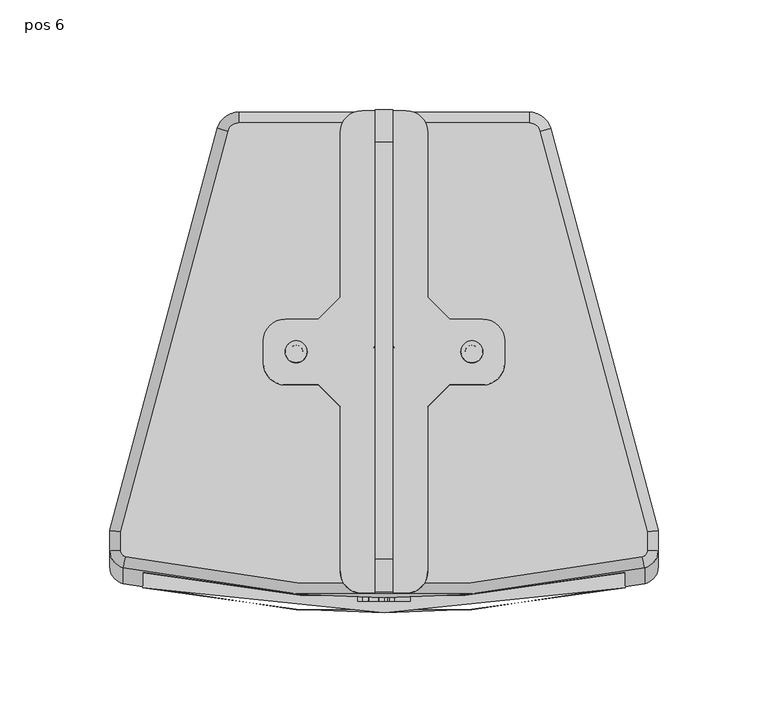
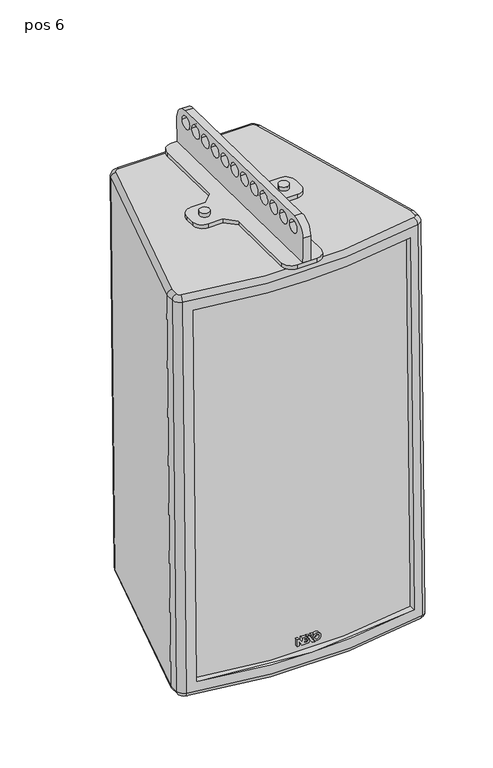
"""IFC4 building model written with IfcOpenShell, lengths in millimetres: proxy geometry, ePS8-BUMP-TRUSSVM : pos 6."""

from ifc_helpers import new_model, si_unit, point, frame, frame_2d, origin, origin_2d, place, context, project, spatial, polyline, circle_curve, ellipse_curve, trimmed, segment, composite_curve, outline, extrude, source, transform, mapped, element, save
from ifc_brep_helpers import plane_surface, cylinder_surface, revolved_surface, advanced_brep


def pos_6_240014a1(model_context):
    return source(origin(), model_context, "Body", "SolidModel", [
        extrude(outline(composite_curve([segment(trimmed(circle_curve(frame_2d((0.0, -5.0)), 5.0), [point((0.0, -10.0))], [point((0.0, 0.0))], False, "CARTESIAN"), True, "CONTINUOUS"), segment(trimmed(circle_curve(frame_2d((0.0, -5.0)), 5.0), [point((0.0, 0.0))], [point((0.0, -10.0))], False, "CARTESIAN"), True, "CONTINUOUS")], self_intersect=False)), frame((-35.0511607, 7.5185807, -29.1356548), z_axis=(0.0, 0.017452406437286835, 0.9998476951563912), x_axis=(0.0, -0.9998476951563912, 0.017452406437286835)), (0.0, 0.0, 1.0), 4.0),
        extrude(outline(composite_curve([segment(trimmed(circle_curve(frame_2d((0.0, 75.1023214)), 5.0), [point((0.0, 80.1023214))], [point((0.0, 70.1023214))], False, "CARTESIAN"), True, "CONTINUOUS"), segment(trimmed(circle_curve(frame_2d((0.0, 75.1023214)), 5.0), [point((0.0, 70.1023214))], [point((0.0, 80.1023214))], False, "CARTESIAN"), True, "CONTINUOUS")], self_intersect=False)), frame((-35.0511607, 7.5185807, -29.1356548), z_axis=(0.0, 0.017452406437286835, 0.9998476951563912), x_axis=(0.0, -0.9998476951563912, 0.017452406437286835)), (0.0, 0.0, 1.0), 4.0),
        extrude(outline(composite_curve([segment(trimmed(circle_curve(frame_2d((102.9578743, -4.7975934)), 15.0), [point((103.2196604, 10.2001221))], [point((117.9555897, -5.0593795))], False, "CARTESIAN"), True, "CONTINUOUS"), segment(polyline([(117.9555897, -5.0593795), (117.5018271, -31.0554195), (-102.4646658, -27.2158901), (-102.0109032, -1.21985)]), True, "CONTINUOUS"), segment(trimmed(circle_curve(frame_2d((-87.0131878, -1.4816361)), 15.0), [point((-102.0109032, -1.21985))], [point((-86.7514017, 13.5160793))], False, "CARTESIAN"), True, "CONTINUOUS"), segment(polyline([(-86.7514017, 13.5160793), (103.2196604, 10.2001221)]), True, "CONTINUOUS")], self_intersect=False), holes=[composite_curve([segment(trimmed(circle_curve(origin_2d(), 6.5), [point((-6.49901, 0.1134406))], [point((6.49901, -0.1134406))], True, "CARTESIAN"), True, "CONTINUOUS"), segment(trimmed(circle_curve(origin_2d(), 6.5), [point((6.49901, -0.1134406))], [point((-6.49901, 0.1134406))], True, "CARTESIAN"), True, "CONTINUOUS")], self_intersect=False), composite_curve([segment(trimmed(circle_curve(frame_2d((-17.0755239, 0.2980544)), 6.5), [point((-23.5745339, 0.411495))], [point((-10.5765139, 0.1846137))], True, "CARTESIAN"), True, "CONTINUOUS"), segment(trimmed(circle_curve(frame_2d((-17.0755239, 0.2980544)), 6.5), [point((-10.5765139, 0.1846137))], [point((-23.5745339, 0.411495))], True, "CARTESIAN"), True, "CONTINUOUS")], self_intersect=False), composite_curve([segment(trimmed(circle_curve(frame_2d((-34.1510478, 0.5961088)), 6.5), [point((-40.6500579, 0.7095494))], [point((-27.6520378, 0.4826681))], True, "CARTESIAN"), True, "CONTINUOUS"), segment(trimmed(circle_curve(frame_2d((-34.1510478, 0.5961088)), 6.5), [point((-27.6520378, 0.4826681))], [point((-40.6500579, 0.7095494))], True, "CARTESIAN"), True, "CONTINUOUS")], self_intersect=False), composite_curve([segment(trimmed(circle_curve(frame_2d((-51.2265718, 0.8941631)), 6.5), [point((-57.7255818, 1.0076038))], [point((-44.7275617, 0.7807225))], True, "CARTESIAN"), True, "CONTINUOUS"), segment(trimmed(circle_curve(frame_2d((-51.2265718, 0.8941631)), 6.5), [point((-44.7275617, 0.7807225))], [point((-57.7255818, 1.0076038))], True, "CARTESIAN"), True, "CONTINUOUS")], self_intersect=False), composite_curve([segment(trimmed(circle_curve(frame_2d((-68.3020957, 1.1922175)), 6.5), [point((-74.8011057, 1.3056582))], [point((-61.8030857, 1.0787769))], True, "CARTESIAN"), True, "CONTINUOUS"), segment(trimmed(circle_curve(frame_2d((-68.3020957, 1.1922175)), 6.5), [point((-61.8030857, 1.0787769))], [point((-74.8011057, 1.3056582))], True, "CARTESIAN"), True, "CONTINUOUS")], self_intersect=False), composite_curve([segment(trimmed(circle_curve(frame_2d((-85.3776196, 1.4902719)), 6.5), [point((-91.8766296, 1.6037125))], [point((-78.8786096, 1.3768313))], True, "CARTESIAN"), True, "CONTINUOUS"), segment(trimmed(circle_curve(frame_2d((-85.3776196, 1.4902719)), 6.5), [point((-78.8786096, 1.3768313))], [point((-91.8766296, 1.6037125))], True, "CARTESIAN"), True, "CONTINUOUS")], self_intersect=False), composite_curve([segment(trimmed(circle_curve(frame_2d((17.106153, -0.298589)), 6.5), [point((23.605163, -0.4120297))], [point((10.607143, -0.1851484))], True, "CARTESIAN"), True, "CONTINUOUS"), segment(trimmed(circle_curve(frame_2d((17.106153, -0.298589)), 6.5), [point((10.607143, -0.1851484))], [point((23.605163, -0.4120297))], True, "CARTESIAN"), True, "CONTINUOUS")], self_intersect=False), composite_curve([segment(trimmed(circle_curve(frame_2d((34.1816769, -0.5966434)), 6.5), [point((40.6806869, -0.710084))], [point((27.6826669, -0.4832027))], True, "CARTESIAN"), True, "CONTINUOUS"), segment(trimmed(circle_curve(frame_2d((34.1816769, -0.5966434)), 6.5), [point((27.6826669, -0.4832027))], [point((40.6806869, -0.710084))], True, "CARTESIAN"), True, "CONTINUOUS")], self_intersect=False), composite_curve([segment(trimmed(circle_curve(frame_2d((51.2572008, -0.8946978)), 6.5), [point((57.7562108, -1.0081384))], [point((44.7581908, -0.7812571))], True, "CARTESIAN"), True, "CONTINUOUS"), segment(trimmed(circle_curve(frame_2d((51.2572008, -0.8946978)), 6.5), [point((44.7581908, -0.7812571))], [point((57.7562108, -1.0081384))], True, "CARTESIAN"), True, "CONTINUOUS")], self_intersect=False), composite_curve([segment(trimmed(circle_curve(frame_2d((68.3327247, -1.1927521)), 6.5), [point((74.8317348, -1.3061928))], [point((61.8337147, -1.0793115))], True, "CARTESIAN"), True, "CONTINUOUS"), segment(trimmed(circle_curve(frame_2d((68.3327247, -1.1927521)), 6.5), [point((61.8337147, -1.0793115))], [point((74.8317348, -1.3061928))], True, "CARTESIAN"), True, "CONTINUOUS")], self_intersect=False), composite_curve([segment(trimmed(circle_curve(frame_2d((85.4082487, -1.4908065)), 6.5), [point((91.9072587, -1.6042472))], [point((78.9092386, -1.3773659))], True, "CARTESIAN"), True, "CONTINUOUS"), segment(trimmed(circle_curve(frame_2d((85.4082487, -1.4908065)), 6.5), [point((78.9092386, -1.3773659))], [point((91.9072587, -1.6042472))], True, "CARTESIAN"), True, "CONTINUOUS")], self_intersect=False), composite_curve([segment(trimmed(circle_curve(frame_2d((102.4837726, -1.7888609)), 6.5), [point((108.9827826, -1.9023015))], [point((95.9847626, -1.6754203))], True, "CARTESIAN"), True, "CONTINUOUS"), segment(trimmed(circle_curve(frame_2d((102.4837726, -1.7888609)), 6.5), [point((95.9847626, -1.6754203))], [point((108.9827826, -1.9023015))], True, "CARTESIAN"), True, "CONTINUOUS")], self_intersect=False)]), frame((-4.0, 0.0, 0.0), z_axis=(1.0, 0.0, 0.0), x_axis=(0.0, 1.0, 0.0)), (0.0, 0.0, 1.0), 8.0),
        extrude(outline(composite_curve([segment(polyline([(1.6568542, 0.0), (54.6898628, 53.0330085)]), True, "CONTINUOUS"), segment(trimmed(circle_curve(frame_2d((61.7609306, 45.9619407)), 10.0), [point((54.6898628, 53.0330085))], [point((68.8319985, 53.0330086))], False, "CARTESIAN"), True, "CONTINUOUS"), segment(polyline([(68.8319985, 53.0330086), (82.9741341, 38.8908729)]), True, "CONTINUOUS"), segment(trimmed(circle_curve(frame_2d((75.9030662, 31.8198051)), 10.0), [point((82.9741341, 38.8908729))], [point((82.9741341, 24.7487373))], False, "CARTESIAN"), True, "CONTINUOUS"), segment(polyline([(82.9741341, 24.7487373), (29.9411255, -28.2842713), (29.9411255, -42.4264069), (40.5477272, -53.0330086)]), True, "CONTINUOUS"), segment(trimmed(circle_curve(frame_2d((33.4766594, -60.1040764)), 10.0), [point((40.5477272, -53.0330086))], [point((40.5477272, -67.1751443))], False, "CARTESIAN"), True, "CONTINUOUS"), segment(polyline([(40.5477272, -67.1751443), (33.4766594, -74.246212)]), True, "CONTINUOUS"), segment(trimmed(circle_curve(frame_2d((26.4055916, -67.1751442)), 10.0), [point((33.4766594, -74.246212))], [point((19.3345238, -74.2462121))], False, "CARTESIAN"), True, "CONTINUOUS"), segment(polyline([(19.3345238, -74.2462121), (8.7279221, -63.6396103), (-5.4142135, -63.6396103), (-58.4472222, -116.6726189)]), True, "CONTINUOUS"), segment(trimmed(circle_curve(frame_2d((-65.51829, -109.6015511)), 10.0), [point((-58.4472222, -116.6726189))], [point((-72.5893578, -116.6726189))], False, "CARTESIAN"), True, "CONTINUOUS"), segment(polyline([(-72.5893578, -116.6726189), (-86.7314934, -102.5304833)]), True, "CONTINUOUS"), segment(trimmed(circle_curve(frame_2d((-79.6604256, -95.4594155)), 10.0), [point((-86.7314934, -102.5304833))], [point((-86.7314934, -88.3883477))], False, "CARTESIAN"), True, "CONTINUOUS"), segment(polyline([(-86.7314934, -88.3883477), (-33.6984848, -35.3553391), (-33.6984848, -21.2132035), (-44.3050865, -10.6066018)]), True, "CONTINUOUS"), segment(trimmed(circle_curve(frame_2d((-37.2340187, -3.5355339)), 10.0), [point((-44.3050865, -10.6066018))], [point((-44.3050865, 3.5355339))], False, "CARTESIAN"), True, "CONTINUOUS"), segment(polyline([(-44.3050865, 3.5355339), (-37.2340187, 10.6066017)]), True, "CONTINUOUS"), segment(trimmed(circle_curve(frame_2d((-30.1629509, 3.5355339)), 10.0), [point((-37.2340187, 10.6066017))], [point((-23.0918831, 10.6066017))], False, "CARTESIAN"), True, "CONTINUOUS"), segment(polyline([(-23.0918831, 10.6066017), (-12.4852813, 0.0), (1.6568542, 0.0)]), True, "CONTINUOUS")], self_intersect=False), holes=[composite_curve([segment(trimmed(circle_curve(frame_2d((-30.1702095, -3.5282754)), 3.0), [point((-32.2915298, -1.4069551))], [point((-28.0488891, -5.6495958))], True, "CARTESIAN"), True, "CONTINUOUS"), segment(trimmed(circle_curve(frame_2d((-30.1702095, -3.5282754)), 3.0), [point((-28.0488891, -5.6495958))], [point((-32.2915298, -1.4069551))], True, "CARTESIAN"), True, "CONTINUOUS")], self_intersect=False), composite_curve([segment(trimmed(circle_curve(frame_2d((26.4128501, -60.111335)), 3.0), [point((28.5341704, -62.2326553))], [point((24.2915297, -57.9900146))], True, "CARTESIAN"), True, "CONTINUOUS"), segment(trimmed(circle_curve(frame_2d((26.4128501, -60.111335)), 3.0), [point((24.2915297, -57.9900146))], [point((28.5341704, -62.2326553))], True, "CARTESIAN"), True, "CONTINUOUS")], self_intersect=False)]), frame((-21.1715729, 31.273569, -33.550909), z_axis=(0.0, 0.01745240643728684, 0.9998476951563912), x_axis=(0.7071067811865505, 0.7069990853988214, -0.012340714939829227)), (0.0, 0.0, 1.0), 4.0),
        extrude(outline(composite_curve([segment(trimmed(circle_curve(frame_2d((-3.670838, -20.0113735)), 3.9406238), [point((-3.670838, -16.0707497))], [point((-3.670838, -23.9519974))], False, "CARTESIAN"), True, "CONTINUOUS"), segment(trimmed(circle_curve(frame_2d((-3.670838, -20.0113735)), 3.9406238), [point((-3.670838, -23.9519974))], [point((-3.670838, -16.0707497))], False, "CARTESIAN"), True, "CONTINUOUS")], self_intersect=False), holes=[composite_curve([segment(trimmed(circle_curve(frame_2d((-3.670838, -20.0113735)), 2.0681078), [point((-3.670838, -17.9432657))], [point((-3.670838, -22.0794813))], True, "CARTESIAN"), True, "CONTINUOUS"), segment(trimmed(circle_curve(frame_2d((-3.670838, -20.0113735)), 2.0681078), [point((-3.670838, -22.0794813))], [point((-3.670838, -17.9432657))], True, "CARTESIAN"), True, "CONTINUOUS")], self_intersect=False)]), frame((-11.9363528, -102.904018, -424.8278337), z_axis=(0.0, -0.9998476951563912, 0.017452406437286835), x_axis=(0.0, 0.017452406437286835, 0.9998476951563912)), (0.0, 0.0, 1.0), 3.0),
        extrude(outline(polyline([(0.0, 0.0), (0.0, -2.0264794), (-4.4509076, -4.9657455), (-0.0008515, -4.9754371), (-0.0008515, -9.2438132), (-0.8035818, -9.7774719), (-1.6035817, -9.7774719), (-1.6035817, -7.3703972), (-2.820085, -7.3703972), (-2.820085, -9.6535101), (-4.4228152, -9.6535101), (-4.4228152, -7.3703972), (-5.6771027, -7.3703972), (-5.6771027, -10.4040265), (-3.8052626, -11.7735691), (-5.4047959, -12.8369462), (-7.279767, -11.5183739), (-7.279767, -4.6674642), (-3.1144368, -1.8923673), (-7.279767, -1.8923673), (-7.279767, 0.0), (0.0, 0.0)])), frame((-11.9363528, -102.904018, -424.8278337), z_axis=(0.0, -0.9998476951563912, 0.017452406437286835), x_axis=(0.0, 0.017452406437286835, 0.9998476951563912)), (0.0, 0.0, 1.0), 3.0),
        extrude(outline(polyline([(0.0, -9.8851283), (0.0, -12.078331), (-8.2409469, -17.5569502), (-8.2409469, -15.3637475), (0.0, -9.8851283)])), frame((-11.9363528, -102.904018, -424.8278337), z_axis=(0.0, -0.9998476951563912, 0.017452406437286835), x_axis=(0.0, 0.017452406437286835, 0.9998476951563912)), (0.0, 0.0, 1.0), 3.0),
        extrude(outline(polyline([(0.0, -16.6257623), (-2.8988509, -14.6354032), (-1.2679569, -13.5511775), (0.0, -14.2989718), (0.0, -16.6257623)])), frame((-11.9363528, -102.904018, -424.8278337), z_axis=(0.0, -0.9998476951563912, 0.017452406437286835), x_axis=(0.0, 0.017452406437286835, 0.9998476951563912)), (0.0, 0.0, 1.0), 3.0),
        extrude(outline(composite_curve([segment(trimmed(circle_curve(frame_2d((0.0, -55.0)), 11.4515227), [point((0.0, -43.5484773))], [point((0.0, -66.4515227))], False, "CARTESIAN"), True, "CONTINUOUS"), segment(trimmed(circle_curve(frame_2d((0.0, -55.0)), 11.4515227), [point((0.0, -66.4515227))], [point((0.0, -43.5484773))], False, "CARTESIAN"), True, "CONTINUOUS")], self_intersect=False), holes=[composite_curve([segment(trimmed(circle_curve(frame_2d((0.0, -55.0)), 5.0), [point((0.0, -50.0))], [point((0.0, -60.0))], True, "CARTESIAN"), True, "CONTINUOUS"), segment(trimmed(circle_curve(frame_2d((0.0, -55.0)), 5.0), [point((0.0, -60.0))], [point((0.0, -50.0))], True, "CARTESIAN"), True, "CONTINUOUS")], self_intersect=False)]), frame((25.0, 116.2032771, -420.592085), z_axis=(0.0, -0.9998476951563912, 0.017452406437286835), x_axis=(0.0, -0.017452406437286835, -0.9998476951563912)), (0.0, 0.0, 1.0), 3.0),
        extrude(outline(composite_curve([segment(trimmed(circle_curve(frame_2d((0.0, 5.0)), 11.4515227), [point((0.0, 16.4515227))], [point((0.0, -6.4515227))], False, "CARTESIAN"), True, "CONTINUOUS"), segment(trimmed(circle_curve(frame_2d((0.0, 5.0)), 11.4515227), [point((0.0, -6.4515227))], [point((0.0, 16.4515227))], False, "CARTESIAN"), True, "CONTINUOUS")], self_intersect=False), holes=[composite_curve([segment(trimmed(circle_curve(frame_2d((0.0, 5.0)), 5.0), [point((0.0, 10.0))], [point((0.0, 0.0))], True, "CARTESIAN"), True, "CONTINUOUS"), segment(trimmed(circle_curve(frame_2d((0.0, 5.0)), 5.0), [point((0.0, 0.0))], [point((0.0, 10.0))], True, "CARTESIAN"), True, "CONTINUOUS")], self_intersect=False)]), frame((25.0, 116.2032771, -420.592085), z_axis=(0.0, -0.9998476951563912, 0.017452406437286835), x_axis=(0.0, -0.017452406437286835, -0.9998476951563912)), (0.0, 0.0, 1.0), 3.0),
        extrude(outline(composite_curve([segment(trimmed(circle_curve(frame_2d((0.0, -5.0)), 5.0), [point((5.0, -5.0))], [point((0.0, -10.0))], False, "CARTESIAN"), True, "CONTINUOUS"), segment(polyline([(0.0, -10.0), (-27.9999999, -10.0)]), True, "CONTINUOUS"), segment(trimmed(circle_curve(frame_2d((-27.9999999, -5.0)), 5.0), [point((-27.9999999, -10.0))], [point((-33.0, -5.0))], False, "CARTESIAN"), True, "CONTINUOUS"), segment(polyline([(-33.0, -5.0), (-33.0, 101.0)]), True, "CONTINUOUS"), segment(trimmed(circle_curve(frame_2d((-27.9999999, 101.0)), 5.0), [point((-33.0, 101.0))], [point((-27.9999999, 106.0))], False, "CARTESIAN"), True, "CONTINUOUS"), segment(polyline([(-27.9999999, 106.0), (0.0, 106.0)]), True, "CONTINUOUS"), segment(trimmed(circle_curve(frame_2d((0.0, 101.0)), 5.0), [point((0.0, 106.0))], [point((5.0, 101.0))], False, "CARTESIAN"), True, "CONTINUOUS"), segment(polyline([(5.0, 101.0), (5.0, -5.0)]), True, "CONTINUOUS")], self_intersect=False)), frame((48.0, 113.4480677, -406.5418601), z_axis=(0.0, -0.9998476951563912, 0.017452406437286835), x_axis=(0.0, 0.017452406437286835, 0.9998476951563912)), (0.0, 0.0, 1.0), 3.0),
        advanced_brep(
        [(110.0, -92.8619436, -46.3864005), (110.0, -86.0125854, -46.5059565), (110.0, -92.8713811, -439.4461007), (110.0, -99.7207393, -439.3265447), (-71.0680005, 108.2275148, -34.8941451), (-120.0, -74.36138, -31.7070441), (-120.0, -82.8669468, -31.5585789), (-117.6705435, -85.7906033, -31.5075463), (117.6705435, -85.7906033, -31.5075463), (120.0, -82.8669468, -31.5585789), (120.0, -74.36138, -31.7070441), (71.0680005, 108.2275148, -34.8941451), (66.2383714, 111.9328552, -34.9588221), (-66.2383714, 111.9328552, -34.9588221), (0.0, 2.4495326, -33.0477836), (0.0, 12.4480095, -33.2223076), (-40.0, 2.4495326, -33.0477836), (-40.0, 12.4480095, -33.2223076), (40.0, 2.4495326, -33.0477836), (40.0, 12.4480095, -33.2223076), (-120.0, -81.7437479, -454.6426192), (-71.0680005, 100.8451469, -457.8297202), (-66.2383714, 104.5504873, -457.8943971), (66.2383714, 104.5504873, -457.8943971), (71.0680005, 100.8451469, -457.8297202), (120.0, -81.7437479, -454.6426192), (120.0, -90.2493147, -454.4941539), (117.6705435, -93.1729712, -454.4431213), (-117.6705435, -93.1729712, -454.4431213), (-120.0, -90.2493147, -454.4941539), (0.0, 5.0656416, -456.1578827), (0.0, -4.9328354, -455.9833586), (-40.0, 5.0656416, -456.1578827), (-40.0, -4.9328354, -455.9833586), (40.0, 5.0656416, -456.1578827), (40.0, -4.9328354, -455.9833586), (-66.2383714, 116.8448316, -40.0453226), (66.2383714, 116.8448316, -40.0453226), (66.2383714, 109.6369878, -452.9824207), (-66.2383714, 109.6369878, -452.9824207), (-47.3432823, 113.5900329, -226.5126165), (-58.6566026, 113.5900329, -226.5126165), (22.6567177, 113.5900329, -226.5126165), (11.3433974, 113.5900329, -226.5126165), (22.6567177, 114.8117013, -156.5232779), (11.3433974, 114.8117013, -156.5232779), (118.788116, -90.7506261, -36.4217304), (-118.788116, -90.7506261, -36.4217304), (-118.788116, -97.9584699, -449.3588284), (118.788116, -97.9584699, -449.3588285), (-110.0, -92.8619436, -46.3864005), (-110.0, -99.7207393, -439.3265447), (125.0, -82.9542089, -36.5578174), (125.0, -90.1620527, -449.4949155), (125.0, -73.7904798, -36.7177709), (125.0, -80.9983236, -449.6548689), (75.8976296, 109.4341509, -39.9159687), (75.8976296, 102.2263071, -452.8530668), (-75.8976296, 109.4341509, -39.9159687), (-75.8976296, 102.2263071, -452.8530668), (-125.0, -73.7904798, -36.7177709), (-125.0, -80.9983236, -449.6548689), (-125.0, -82.9542089, -36.5578174), (-125.0, -90.1620527, -449.4949155), (0.0, 12.3956523, -36.2218507), (0.0, 2.3971753, -36.0473267), (-40.0, 12.3956523, -36.2218507), (-40.0, 2.3971753, -36.0473267), (40.0, 12.3956523, -36.2218507), (40.0, 2.3971753, -36.0473267), (-110.0, -86.1222363, -46.5040425), (-110.0, -92.981032, -439.4441867), (0.0, 5.1179988, -453.1583396), (0.0, -4.8804781, -452.9838155), (-40.0, 5.1179988, -453.1583396), (-40.0, -4.8804781, -452.9838155), (40.0, 5.1179988, -453.1583396), (40.0, -4.8804781, -452.9838155), (-47.3432823, 110.5904898, -226.4602593), (-58.6566026, 110.5904898, -226.4602593), (22.6567177, 110.5904898, -226.4602593), (11.3433974, 110.5904898, -226.4602593), (22.6567177, 111.8121583, -156.4709206), (11.3433974, 111.8121583, -156.4709206)],
        [
            (0, 1),
            (1, 2),
            (2, 3),
            (3, 0),
            (4, 5),
            (5, 6),
            (6, 7, circle_curve(frame((-117.0, -82.8669468, -31.5585789), z_axis=(0.0, 0.017452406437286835, 0.9998476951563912), x_axis=(-0.22351449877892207, -0.974552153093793, 0.017010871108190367)), 3.0)),
            (7, 8, circle_curve(frame((0.0, 427.2682012, -40.463021), z_axis=(0.0, 0.017452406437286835, 0.9998476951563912), x_axis=(0.22351449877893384, -0.9745521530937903, 0.017010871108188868)), 526.4559755)),
            (8, 9, circle_curve(frame((117.0, -82.8669468, -31.5585789), z_axis=(0.0, 0.017452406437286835, 0.9998476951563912), x_axis=(1.0, 0.0, 0.0)), 3.0)),
            (9, 10),
            (10, 11),
            (11, 12, circle_curve(frame((66.2383714, 106.9336167, -34.87156), z_axis=(0.0, 0.017452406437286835, 0.9998476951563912), x_axis=(0.0, 0.9998476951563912, -0.017452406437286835)), 5.0)),
            (12, 13),
            (13, 4, circle_curve(frame((-66.2383714, 106.9336167, -34.87156), z_axis=(0.0, 0.017452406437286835, 0.9998476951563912), x_axis=(-0.9659258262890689, 0.2587796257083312, -0.0045170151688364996)), 5.0)),
            (14, 15, circle_curve(frame((0.0, 7.448771, -33.1350456), z_axis=(0.0, -0.017452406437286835, -0.9998476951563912), x_axis=(0.0, -0.9998476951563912, 0.017452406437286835)), 5.0)),
            (15, 14, circle_curve(frame((0.0, 7.448771, -33.1350456), z_axis=(0.0, -0.017452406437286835, -0.9998476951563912), x_axis=(0.0, -0.9998476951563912, 0.017452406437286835)), 5.0)),
            (16, 17, circle_curve(frame((-40.0, 7.448771, -33.1350456), z_axis=(0.0, -0.017452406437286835, -0.9998476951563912), x_axis=(0.0, -0.9998476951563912, 0.017452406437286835)), 5.0)),
            (17, 16, circle_curve(frame((-40.0, 7.448771, -33.1350456), z_axis=(0.0, -0.017452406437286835, -0.9998476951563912), x_axis=(0.0, -0.9998476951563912, 0.017452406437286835)), 5.0)),
            (18, 19, circle_curve(frame((40.0, 7.448771, -33.1350456), z_axis=(0.0, -0.017452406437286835, -0.9998476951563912), x_axis=(0.0, -0.9998476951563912, 0.017452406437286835)), 5.0)),
            (19, 18, circle_curve(frame((40.0, 7.448771, -33.1350456), z_axis=(0.0, -0.017452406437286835, -0.9998476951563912), x_axis=(0.0, -0.9998476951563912, 0.017452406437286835)), 5.0)),
            (20, 21),
            (21, 22, circle_curve(frame((-66.2383714, 99.5512488, -457.8071351), z_axis=(0.0, -0.017452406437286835, -0.9998476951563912), x_axis=(-0.9659258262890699, 0.25877962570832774, -0.00451701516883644)), 5.0)),
            (22, 23),
            (23, 24, circle_curve(frame((66.2383714, 99.5512488, -457.8071351), z_axis=(0.0, -0.017452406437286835, -0.9998476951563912), x_axis=(0.0, 0.9998476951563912, -0.017452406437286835)), 5.0)),
            (24, 25),
            (25, 26),
            (26, 27, circle_curve(frame((117.0, -90.2493147, -454.4941539), z_axis=(0.0, -0.017452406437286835, -0.9998476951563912), x_axis=(1.0, 0.0, 0.0)), 3.0)),
            (27, 28, circle_curve(frame((0.0, 419.8858332, -463.3985961), z_axis=(0.0, -0.017452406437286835, -0.9998476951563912), x_axis=(0.22351449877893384, -0.9745521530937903, 0.017010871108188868)), 526.4559755)),
            (28, 29, circle_curve(frame((-117.0, -90.2493147, -454.4941539), z_axis=(0.0, -0.017452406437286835, -0.9998476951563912), x_axis=(-0.22351449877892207, -0.974552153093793, 0.017010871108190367)), 3.0)),
            (29, 20),
            (30, 31, circle_curve(frame((0.0, 0.0664031, -456.0706207), z_axis=(0.0, 0.017452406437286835, 0.9998476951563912), x_axis=(0.0, -0.9998476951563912, 0.017452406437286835)), 5.0)),
            (31, 30, circle_curve(frame((0.0, 0.0664031, -456.0706207), z_axis=(0.0, 0.017452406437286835, 0.9998476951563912), x_axis=(0.0, -0.9998476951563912, 0.017452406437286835)), 5.0)),
            (32, 33, circle_curve(frame((-40.0, 0.0664031, -456.0706207), z_axis=(0.0, 0.017452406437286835, 0.9998476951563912), x_axis=(0.0, -0.9998476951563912, 0.017452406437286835)), 5.0)),
            (33, 32, circle_curve(frame((-40.0, 0.0664031, -456.0706207), z_axis=(0.0, 0.017452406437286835, 0.9998476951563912), x_axis=(0.0, -0.9998476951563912, 0.017452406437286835)), 5.0)),
            (34, 35, circle_curve(frame((40.0, 0.0664031, -456.0706207), z_axis=(0.0, 0.017452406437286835, 0.9998476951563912), x_axis=(0.0, -0.9998476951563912, 0.017452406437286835)), 5.0)),
            (35, 34, circle_curve(frame((40.0, 0.0664031, -456.0706207), z_axis=(0.0, 0.017452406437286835, 0.9998476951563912), x_axis=(0.0, -0.9998476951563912, 0.017452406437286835)), 5.0)),
            (36, 37),
            (37, 38),
            (38, 39),
            (39, 36),
            (40, 41, circle_curve(frame((-52.9999424, 113.5900329, -226.5126165), z_axis=(0.0, -0.9998476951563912, 0.017452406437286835), x_axis=(-1.0, 0.0, 0.0)), 5.6566602)),
            (41, 40, circle_curve(frame((-52.9999424, 113.5900329, -226.5126165), z_axis=(0.0, -0.9998476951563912, 0.017452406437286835), x_axis=(-1.0, 0.0, 0.0)), 5.6566602)),
            (42, 43, circle_curve(frame((17.0000576, 113.5900329, -226.5126165), z_axis=(0.0, -0.9998476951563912, 0.017452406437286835), x_axis=(-1.0, 0.0, 0.0)), 5.6566602)),
            (43, 42, circle_curve(frame((17.0000576, 113.5900329, -226.5126165), z_axis=(0.0, -0.9998476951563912, 0.017452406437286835), x_axis=(-1.0, 0.0, 0.0)), 5.6566602)),
            (44, 45, circle_curve(frame((17.0000576, 114.8117013, -156.5232779), z_axis=(0.0, -0.9998476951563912, 0.017452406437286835), x_axis=(-1.0, 0.0, 0.0)), 5.6566602)),
            (45, 44, circle_curve(frame((17.0000576, 114.8117013, -156.5232779), z_axis=(0.0, -0.9998476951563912, 0.017452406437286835), x_axis=(-1.0, 0.0, 0.0)), 5.6566602)),
            (46, 47, circle_curve(frame((0.0, 427.1809391, -45.4622595), z_axis=(0.0, -0.017452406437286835, -0.9998476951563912), x_axis=(1.0, 0.0, 0.0)), 531.4559755)),
            (47, 48),
            (48, 49, circle_curve(frame((0.0, 419.9730953, -458.3993576), z_axis=(0.0, 0.017452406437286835, 0.9998476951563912), x_axis=(1.0, 0.0, 0.0)), 531.4559755)),
            (49, 46),
            (50, 0, circle_curve(frame((0.0, 427.0064151, -55.4607364), z_axis=(0.0, 0.017452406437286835, 0.9998476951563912), x_axis=(1.0, 0.0, 0.0)), 531.4559755)),
            (3, 51, circle_curve(frame((0.0, 420.1476193, -448.4008806), z_axis=(0.0, -0.017452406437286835, -0.9998476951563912), x_axis=(1.0, 0.0, 0.0)), 531.4559755)),
            (51, 50),
            (52, 46, circle_curve(frame((117.0, -82.9542089, -36.5578174), z_axis=(0.0, -0.017452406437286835, -0.9998476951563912), x_axis=(1.0, 0.0, 0.0)), 8.0)),
            (49, 53, circle_curve(frame((117.0, -90.1620527, -449.4949155), z_axis=(0.0, 0.017452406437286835, 0.9998476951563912), x_axis=(1.0, 0.0, 0.0)), 8.0)),
            (53, 52),
            (54, 52),
            (53, 55),
            (55, 54),
            (56, 54),
            (55, 57),
            (57, 56),
            (37, 56, circle_curve(frame((66.2383714, 106.8463547, -39.8707985), z_axis=(0.0, -0.017452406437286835, -0.9998476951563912), x_axis=(1.0, 0.0, 0.0)), 10.0)),
            (57, 38, circle_curve(frame((66.2383714, 99.6385108, -452.8078966), z_axis=(0.0, 0.017452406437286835, 0.9998476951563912), x_axis=(1.0, 0.0, 0.0)), 10.0)),
            (58, 36, circle_curve(frame((-66.2383714, 106.8463547, -39.8707985), z_axis=(0.0, -0.017452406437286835, -0.9998476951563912), x_axis=(1.0, 0.0, 0.0)), 10.0)),
            (39, 59, circle_curve(frame((-66.2383714, 99.6385108, -452.8078966), z_axis=(0.0, 0.017452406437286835, 0.9998476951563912), x_axis=(1.0, 0.0, 0.0)), 10.0)),
            (59, 58),
            (60, 58),
            (59, 61),
            (61, 60),
            (62, 60),
            (61, 63),
            (63, 62),
            (47, 62, circle_curve(frame((-117.0, -82.9542089, -36.5578174), z_axis=(0.0, -0.017452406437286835, -0.9998476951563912), x_axis=(1.0, 0.0, 0.0)), 8.0)),
            (63, 48, circle_curve(frame((-117.0, -90.1620527, -449.4949155), z_axis=(0.0, 0.017452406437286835, 0.9998476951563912), x_axis=(1.0, 0.0, 0.0)), 8.0)),
            (64, 65, circle_curve(frame((0.0, 7.3964138, -36.1345887), z_axis=(0.0, 0.017452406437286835, 0.9998476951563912), x_axis=(0.0, -0.9998476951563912, 0.017452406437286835)), 5.0)),
            (65, 64, circle_curve(frame((0.0, 7.3964138, -36.1345887), z_axis=(0.0, 0.017452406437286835, 0.9998476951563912), x_axis=(0.0, -0.9998476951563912, 0.017452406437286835)), 5.0)),
            (66, 67, circle_curve(frame((-40.0, 7.3964138, -36.1345887), z_axis=(0.0, 0.017452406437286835, 0.9998476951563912), x_axis=(0.0, -0.9998476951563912, 0.017452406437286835)), 5.0)),
            (67, 66, circle_curve(frame((-40.0, 7.3964138, -36.1345887), z_axis=(0.0, 0.017452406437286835, 0.9998476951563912), x_axis=(0.0, -0.9998476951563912, 0.017452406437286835)), 5.0)),
            (68, 69, circle_curve(frame((40.0, 7.3964138, -36.1345887), z_axis=(0.0, 0.017452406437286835, 0.9998476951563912), x_axis=(0.0, -0.9998476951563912, 0.017452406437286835)), 5.0)),
            (69, 68, circle_curve(frame((40.0, 7.3964138, -36.1345887), z_axis=(0.0, 0.017452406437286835, 0.9998476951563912), x_axis=(0.0, -0.9998476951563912, 0.017452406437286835)), 5.0)),
            (64, 15),
            (14, 65),
            (66, 17),
            (16, 67),
            (68, 19),
            (18, 69),
            (50, 70),
            (70, 1, circle_curve(frame((-0.2540909, 423.5767104, -55.4008707), z_axis=(0.0, 0.017452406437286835, 0.9998476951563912), x_axis=(1.0, 0.0, 0.0)), 521.4559755)),
            (2, 71, circle_curve(frame((-0.2540909, 416.7179147, -448.3410149), z_axis=(0.0, -0.017452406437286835, -0.9998476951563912), x_axis=(1.0, 0.0, 0.0)), 521.4559755)),
            (71, 51),
            (70, 71),
            (4, 58, circle_curve(frame((-71.0680005, 108.1402528, -39.8933836), z_axis=(-0.25881904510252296, -0.9657787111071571, 0.016857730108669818), x_axis=(-0.9659258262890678, 0.2587796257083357, -0.004517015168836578)), 5.0)),
            (60, 5, ellipse_curve(frame((-120.0, -74.448642, -36.7062826), z_axis=(0.13052619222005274, 0.991293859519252, -0.017303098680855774), x_axis=(0.9914448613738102, -0.13050631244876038, 0.002277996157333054)), 5.0431448, 5.0)),
            (13, 36, circle_curve(frame((-66.2383714, 111.8455931, -39.9580606), z_axis=(-1.0, 0.0, 0.0), x_axis=(0.0, 0.9998476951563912, -0.017452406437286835)), 5.0)),
            (12, 37, circle_curve(frame((66.2383714, 111.8455931, -39.9580606), z_axis=(-1.0, 0.0, 0.0), x_axis=(0.0, 0.9998476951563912, -0.017452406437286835)), 5.0)),
            (11, 56, circle_curve(frame((71.0680005, 108.1402528, -39.8933836), z_axis=(-0.2588190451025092, 0.9657787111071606, -0.016857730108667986), x_axis=(0.9659258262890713, 0.2587796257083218, -0.004517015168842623)), 5.0)),
            (10, 54, ellipse_curve(frame((120.0, -74.448642, -36.7062826), z_axis=(-0.13052619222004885, 0.9912938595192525, -0.017303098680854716), x_axis=(0.9914448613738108, 0.1305063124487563, -0.002277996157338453)), 5.0431448, 5.0)),
            (62, 6, circle_curve(frame((-120.0, -82.9542089, -36.5578174), z_axis=(0.0, 0.9998476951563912, -0.01745240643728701), x_axis=(-1.0, 0.0, 0.0)), 5.0)),
            (9, 52, circle_curve(frame((120.0, -82.9542089, -36.5578174), z_axis=(0.0, 0.9998476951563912, -0.017452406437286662), x_axis=(1.0, 0.0, 0.0)), 5.0)),
            (8, 46, circle_curve(frame((117.6705435, -85.8778653, -36.5067848), z_axis=(0.974700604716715, 0.22348045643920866, -0.003900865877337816), x_axis=(0.22351449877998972, -0.9745521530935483, 0.017010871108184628)), 5.0)),
            (7, 47, circle_curve(frame((-117.6705435, -85.8778653, -36.5067848), z_axis=(0.9747006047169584, -0.22348045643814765, 0.0039008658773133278), x_axis=(-0.22351449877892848, -0.9745521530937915, 0.01701087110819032)), 5.0)),
            (59, 21, circle_curve(frame((-71.0680005, 100.9324089, -452.8304817), z_axis=(-0.258819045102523, -0.9657787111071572, 0.01685773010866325), x_axis=(-0.9659258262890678, 0.25877962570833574, -0.0045170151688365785)), 5.0)),
            (20, 61, ellipse_curve(frame((-120.0, -81.6564859, -449.6433807), z_axis=(0.13052619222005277, 0.9912938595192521, -0.017303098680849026), x_axis=(0.9914448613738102, -0.13050631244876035, 0.0022779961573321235)), 5.0431448, 5.0)),
            (39, 22, circle_curve(frame((-66.2383714, 104.6377493, -452.8951587), z_axis=(-1.0, 0.0, 0.0), x_axis=(0.0, 0.9998476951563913, -0.01745240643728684)), 5.0)),
            (38, 23, circle_curve(frame((66.2383714, 104.6377493, -452.8951587), z_axis=(-1.0, 0.0, 0.0), x_axis=(0.0, 0.9998476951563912, -0.017452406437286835)), 5.0)),
            (57, 24, circle_curve(frame((71.0680005, 100.9324089, -452.8304817), z_axis=(-0.25881904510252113, 0.9657787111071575, -0.016857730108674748), x_axis=(0.9659258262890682, 0.25877962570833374, -0.004517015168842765)), 5.0)),
            (55, 25, ellipse_curve(frame((120.0, -81.6564859, -449.6433807), z_axis=(-0.13052619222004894, 0.9912938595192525, -0.017303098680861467), x_axis=(0.9914448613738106, 0.130506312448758, -0.0022779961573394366)), 5.0431448, 5.0)),
            (29, 63, circle_curve(frame((-120.0, -90.1620527, -449.4949155), z_axis=(0.0, 0.9998476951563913, -0.01745240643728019), x_axis=(-1.0, 0.0, 0.0)), 5.0)),
            (53, 26, circle_curve(frame((120.0, -90.1620527, -449.4949155), z_axis=(0.0, 0.999847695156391, -0.01745240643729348), x_axis=(1.0, 0.0, 0.0)), 5.0)),
            (49, 27, circle_curve(frame((117.6705435, -93.0857092, -449.4438829), z_axis=(0.9747006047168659, 0.22348045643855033, -0.0039008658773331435), x_axis=(0.22351449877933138, -0.974552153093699, 0.017010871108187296)), 5.0)),
            (48, 28, circle_curve(frame((-117.6705435, -93.0857092, -449.4438829), z_axis=(0.9747006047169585, -0.22348045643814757, 0.0039008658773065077), x_axis=(-0.2235144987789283, -0.9745521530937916, 0.017010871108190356)), 5.0)),
            (72, 73, circle_curve(frame((0.0, 0.1187603, -453.0710776), z_axis=(0.0, -0.017452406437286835, -0.9998476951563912), x_axis=(0.0, -0.9998476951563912, 0.017452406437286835)), 5.0)),
            (73, 72, circle_curve(frame((0.0, 0.1187603, -453.0710776), z_axis=(0.0, -0.017452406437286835, -0.9998476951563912), x_axis=(0.0, -0.9998476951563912, 0.017452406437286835)), 5.0)),
            (74, 75, circle_curve(frame((-40.0, 0.1187603, -453.0710776), z_axis=(0.0, -0.017452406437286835, -0.9998476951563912), x_axis=(0.0, -0.9998476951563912, 0.017452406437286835)), 5.0)),
            (75, 74, circle_curve(frame((-40.0, 0.1187603, -453.0710776), z_axis=(0.0, -0.017452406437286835, -0.9998476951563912), x_axis=(0.0, -0.9998476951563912, 0.017452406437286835)), 5.0)),
            (76, 77, circle_curve(frame((40.0, 0.1187603, -453.0710776), z_axis=(0.0, -0.017452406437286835, -0.9998476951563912), x_axis=(0.0, -0.9998476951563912, 0.017452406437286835)), 5.0)),
            (77, 76, circle_curve(frame((40.0, 0.1187603, -453.0710776), z_axis=(0.0, -0.017452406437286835, -0.9998476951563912), x_axis=(0.0, -0.9998476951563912, 0.017452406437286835)), 5.0)),
            (73, 31),
            (30, 72),
            (75, 33),
            (32, 74),
            (77, 35),
            (34, 76),
            (78, 79, circle_curve(frame((-52.9999424, 110.5904898, -226.4602593), z_axis=(0.0, 0.9998476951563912, -0.017452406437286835), x_axis=(-1.0, 0.0, 0.0)), 5.6566602)),
            (79, 78, circle_curve(frame((-52.9999424, 110.5904898, -226.4602593), z_axis=(0.0, 0.9998476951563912, -0.017452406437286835), x_axis=(-1.0, 0.0, 0.0)), 5.6566602)),
            (80, 81, circle_curve(frame((17.0000576, 110.5904898, -226.4602593), z_axis=(0.0, 0.9998476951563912, -0.017452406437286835), x_axis=(-1.0, 0.0, 0.0)), 5.6566602)),
            (81, 80, circle_curve(frame((17.0000576, 110.5904898, -226.4602593), z_axis=(0.0, 0.9998476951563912, -0.017452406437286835), x_axis=(-1.0, 0.0, 0.0)), 5.6566602)),
            (82, 83, circle_curve(frame((17.0000576, 111.8121583, -156.4709206), z_axis=(0.0, 0.9998476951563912, -0.017452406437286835), x_axis=(-1.0, 0.0, 0.0)), 5.6566602)),
            (83, 82, circle_curve(frame((17.0000576, 111.8121583, -156.4709206), z_axis=(0.0, 0.9998476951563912, -0.017452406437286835), x_axis=(-1.0, 0.0, 0.0)), 5.6566602)),
            (79, 41),
            (40, 78),
            (81, 43),
            (42, 80),
            (83, 45),
            (44, 82),
        ],
        [
            plane_surface(frame((110.0, -92.8619436, -46.3864005), z_axis=(-1.0, 0.0, 0.0), x_axis=(0.0, -0.017452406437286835, -0.9998476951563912))),
            plane_surface(frame((125.0, -82.8669468, -31.5585789), z_axis=(0.0, 0.017452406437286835, 0.9998476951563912), x_axis=(0.0, 0.9998476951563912, -0.017452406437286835))),
            plane_surface(frame((125.0, -90.2493147, -454.4941539), z_axis=(0.0, -0.017452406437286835, -0.9998476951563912), x_axis=(0.0, -0.9998476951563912, 0.017452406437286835))),
            plane_surface(frame((66.2383714, 116.9320937, -35.0460841), z_axis=(0.0, 0.9998476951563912, -0.017452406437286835), x_axis=(0.0, -0.017452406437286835, -0.9998476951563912))),
            cylinder_surface(frame((0.0, 419.8858332, -463.3985961), z_axis=(0.0, 0.017452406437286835, 0.9998476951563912), x_axis=(1.0, 0.0, 0.0)), 531.4559755),
            cylinder_surface(frame((117.0, -90.2493147, -454.4941539), z_axis=(0.0, 0.017452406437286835, 0.9998476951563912), x_axis=(1.0, 0.0, 0.0)), 8.0),
            plane_surface(frame((125.0, -82.8669468, -31.5585789), z_axis=(1.0, 0.0, 0.0), x_axis=(0.0, -0.017452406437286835, -0.9998476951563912))),
            plane_surface(frame((125.0, -73.7032177, -31.7185324), z_axis=(0.9659258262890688, 0.25877962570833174, -0.004517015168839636), x_axis=(0.0, -0.017452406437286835, -0.9998476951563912))),
            cylinder_surface(frame((66.2383714, 99.5512488, -457.8071351), z_axis=(0.0, 0.017452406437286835, 0.9998476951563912), x_axis=(1.0, 0.0, 0.0)), 10.0),
            cylinder_surface(frame((-66.2383714, 99.5512488, -457.8071351), z_axis=(0.0, 0.017452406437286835, 0.9998476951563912), x_axis=(1.0, 0.0, 0.0)), 10.0),
            plane_surface(frame((-75.8976296, 109.521413, -34.9167302), z_axis=(-0.9659258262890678, 0.25877962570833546, -0.004517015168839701), x_axis=(0.0, -0.017452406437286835, -0.9998476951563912))),
            plane_surface(frame((-125.0, -73.7032177, -31.7185324), z_axis=(-1.0, 0.0, 0.0), x_axis=(0.0, -0.017452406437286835, -0.9998476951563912))),
            cylinder_surface(frame((-117.0, -90.2493147, -454.4941539), z_axis=(0.0, 0.017452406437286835, 0.9998476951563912), x_axis=(1.0, 0.0, 0.0)), 8.0),
            plane_surface(frame((0.0, 2.3971753, -36.0473267), z_axis=(0.0, 0.017452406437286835, 0.9998476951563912), x_axis=(-1.0, 0.0, 0.0))),
            revolved_surface(polyline([(0.0, 2.4495325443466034, -33.047783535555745), (0.0, 2.3971753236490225, -36.04732670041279)]), (0.0, 7.3964138, -36.1345887), (0.0, 0.017452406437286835, 0.9998476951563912)),
            revolved_surface(polyline([(-40.0, 2.4495325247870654, -33.047783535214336), (-40.0, 2.3971753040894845, -36.04732670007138)]), (-40.0, 7.448771, -33.1350456), (0.0, 0.017452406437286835, 0.9998476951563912)),
            revolved_surface(polyline([(40.0, 2.4495325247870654, -33.047783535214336), (40.0, 2.3971753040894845, -36.04732670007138)]), (40.0, 7.448771, -33.1350456), (0.0, 0.017452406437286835, 0.9998476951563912)),
            plane_surface(frame((110.0, -150.5489052, -45.3794708), z_axis=(0.0, -0.017452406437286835, -0.9998476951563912), x_axis=(0.0, 0.9998476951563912, -0.017452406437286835))),
            plane_surface(frame((110.0, -157.407701, -438.319615), z_axis=(0.0, 0.017452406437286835, 0.9998476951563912), x_axis=(0.0, -0.9998476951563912, 0.017452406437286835))),
            cylinder_surface(frame((-0.2540909, 416.7179147, -448.3410149), z_axis=(0.0, -0.017452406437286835, -0.9998476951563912), x_axis=(1.0, 0.0, 0.0)), 521.4559755),
            plane_surface(frame((-110.0, -86.1222363, -46.5040425), z_axis=(1.0, 0.0, 0.0), x_axis=(0.0, -0.017452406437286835, -0.9998476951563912))),
            cylinder_surface(frame((-120.1703709, -75.0843779, -36.6951858), z_axis=(0.25881904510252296, 0.9657787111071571, -0.016857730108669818), x_axis=(-0.9659258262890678, 0.2587796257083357, -0.004517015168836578)), 5.0),
            revolved_surface(trimmed(ellipse_curve(frame((-71.0680005, 108.1402528, -39.8933836), z_axis=(-0.2588190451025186, -0.9657787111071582, 0.01685773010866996), x_axis=(-0.9659258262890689, 0.2587796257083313, -0.004517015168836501)), 5.0, 5.0), [point((-71.0680005, 108.2275148, -34.8941451))], [point((-75.8976296, 109.4341509, -39.9159687))], True, "CARTESIAN"), (-66.2383714, 106.9336167, -34.87156), (0.0, -0.017452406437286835, -0.9998476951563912)),
            cylinder_surface(frame((-66.2383714, 111.8455931, -39.9580606), z_axis=(1.0, 0.0, 0.0), x_axis=(0.0, 0.9998476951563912, -0.017452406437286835)), 5.0),
            revolved_surface(trimmed(ellipse_curve(frame((66.2383714, 111.8455931, -39.9580606), z_axis=(-1.0, 0.0, 0.0), x_axis=(0.0, 0.9998476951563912, -0.017452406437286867)), 5.0, 5.0), [point((66.2383714, 111.9328552, -34.9588221))], [point((66.2383714, 116.8448316, -40.0453226))], True, "CARTESIAN"), (66.2383714, 106.9336167, -34.87156), (0.0, -0.017452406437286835, -0.9998476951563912)),
            cylinder_surface(frame((71.0680005, 108.1402528, -39.8933836), z_axis=(0.258819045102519, -0.9657787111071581, 0.016857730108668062), x_axis=(0.9659258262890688, 0.25877962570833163, -0.004517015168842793)), 5.0),
            cylinder_surface(frame((-120.0, -82.9542089, -36.5578174), z_axis=(0.0, 0.9998476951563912, -0.01745240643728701), x_axis=(-1.0, 0.0, 0.0)), 5.0),
            cylinder_surface(frame((120.0, -73.7904798, -36.7177709), z_axis=(0.0, -0.9998476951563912, 0.017452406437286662), x_axis=(1.0, 0.0, 0.0)), 5.0),
            revolved_surface(trimmed(ellipse_curve(frame((120.0, -82.9542089, -36.5578174), z_axis=(0.0, 0.9998476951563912, -0.017452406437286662), x_axis=(1.0, 0.0, 0.0)), 5.0, 5.0), [point((120.0, -82.8669468, -31.5585789))], [point((125.0, -82.9542089, -36.5578174))], True, "CARTESIAN"), (117.0, -82.8669468, -31.5585789), (0.0, -0.017452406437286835, -0.9998476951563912)),
            revolved_surface(trimmed(ellipse_curve(frame((117.6705435, -85.8778653, -36.5067848), z_axis=(0.9747006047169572, 0.2234804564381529, -0.003900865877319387), x_axis=(0.22351449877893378, -0.9745521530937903, 0.01701087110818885)), 5.0, 5.0), [point((117.6705435, -85.7906033, -31.5075463))], [point((118.788116, -90.7506261, -36.4217304))], True, "CARTESIAN"), (0.0, 427.2682012, -40.463021), (0.0, -0.017452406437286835, -0.9998476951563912)),
            revolved_surface(trimmed(ellipse_curve(frame((-117.6705435, -85.8778653, -36.5067848), z_axis=(0.9747006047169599, -0.2234804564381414, 0.0039008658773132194), x_axis=(-0.22351449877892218, -0.974552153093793, 0.01701087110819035)), 5.0, 5.0), [point((-117.6705435, -85.7906033, -31.5075463))], [point((-118.788116, -90.7506261, -36.4217304))], True, "CARTESIAN"), (-117.0, -82.8669468, -31.5585789), (0.0, -0.017452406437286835, -0.9998476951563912)),
            cylinder_surface(frame((-120.1703709, -82.2922218, -449.6322839), z_axis=(0.258819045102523, 0.9657787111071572, -0.01685773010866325), x_axis=(-0.9659258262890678, 0.25877962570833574, -0.0045170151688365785)), 5.0),
            revolved_surface(trimmed(ellipse_curve(frame((-71.0680005, 100.9324089, -452.8304817), z_axis=(-0.2588190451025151, -0.9657787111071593, 0.016857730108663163), x_axis=(-0.9659258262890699, 0.2587796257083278, -0.004517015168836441)), 5.0, 5.0), [point((-75.8976296, 102.2263071, -452.8530668))], [point((-71.0680005, 100.8451469, -457.8297202))], True, "CARTESIAN"), (-66.2383714, 99.5512488, -457.8071351), (0.0, -0.017452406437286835, -0.9998476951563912)),
            cylinder_surface(frame((-66.2383714, 104.6377493, -452.8951587), z_axis=(1.0, 0.0, 0.0), x_axis=(0.0, 0.9998476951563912, -0.017452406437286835)), 5.0),
            revolved_surface(trimmed(ellipse_curve(frame((66.2383714, 104.6377493, -452.8951587), z_axis=(-1.0, 0.0, 0.0), x_axis=(0.0, 0.9998476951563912, -0.017452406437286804)), 5.0, 5.0), [point((66.2383714, 109.6369878, -452.9824207))], [point((66.2383714, 104.5504873, -457.8943971))], True, "CARTESIAN"), (66.2383714, 99.5512488, -457.8071351), (0.0, -0.017452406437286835, -0.9998476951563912)),
            cylinder_surface(frame((71.0680005, 100.9324089, -452.8304817), z_axis=(0.2588190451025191, -0.965778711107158, 0.01685773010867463), x_axis=(0.9659258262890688, 0.2587796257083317, -0.004517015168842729)), 5.0),
            cylinder_surface(frame((-120.0, -90.1620527, -449.4949155), z_axis=(0.0, 0.9998476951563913, -0.01745240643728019), x_axis=(-1.0, 0.0, 0.0)), 5.0),
            cylinder_surface(frame((120.0, -80.9983236, -449.6548689), z_axis=(0.0, -0.999847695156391, 0.01745240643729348), x_axis=(1.0, 0.0, 0.0)), 5.0),
            revolved_surface(trimmed(ellipse_curve(frame((120.0, -90.1620527, -449.4949155), z_axis=(0.0, 0.999847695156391, -0.01745240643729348), x_axis=(1.0, 0.0, 0.0)), 5.0, 5.0), [point((125.0, -90.1620527, -449.4949155))], [point((120.0, -90.2493147, -454.4941539))], True, "CARTESIAN"), (117.0, -90.2493147, -454.4941539), (0.0, -0.017452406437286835, -0.9998476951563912)),
            revolved_surface(trimmed(ellipse_curve(frame((117.6705435, -93.0857092, -449.4438829), z_axis=(0.9747006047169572, 0.2234804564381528, -0.0039008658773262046), x_axis=(0.2235144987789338, -0.9745521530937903, 0.017010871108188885)), 5.0, 5.0), [point((118.788116, -97.9584699, -449.3588285))], [point((117.6705435, -93.1729712, -454.4431213))], True, "CARTESIAN"), (0.0, 419.8858332, -463.3985961), (0.0, -0.017452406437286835, -0.9998476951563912)),
            revolved_surface(trimmed(ellipse_curve(frame((-117.6705435, -93.0857092, -449.4438829), z_axis=(0.9747006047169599, -0.2234804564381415, 0.003900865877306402), x_axis=(-0.22351449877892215, -0.974552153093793, 0.017010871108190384)), 5.0, 5.0), [point((-118.788116, -97.9584699, -449.3588285))], [point((-117.6705435, -93.1729712, -454.4431213))], True, "CARTESIAN"), (-117.0, -90.2493147, -454.4941539), (0.0, -0.017452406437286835, -0.9998476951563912)),
            plane_surface(frame((0.0, -4.8804781, -452.9838155), z_axis=(0.0, -0.017452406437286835, -0.9998476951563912), x_axis=(1.0, 0.0, 0.0))),
            revolved_surface(polyline([(0.0, -4.880478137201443, -452.9838154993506), (0.0, -4.9328353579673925, -455.9833586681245)]), (0.0, 0.0140459, -459.0701637), (0.0, 0.017452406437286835, 0.9998476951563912)),
            revolved_surface(polyline([(-40.0, -4.880478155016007, -452.9838154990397), (-40.0, -4.9328353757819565, -455.98335866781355)]), (-40.0, 0.0664031, -456.0706207), (0.0, 0.017452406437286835, 0.9998476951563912)),
            revolved_surface(polyline([(40.0, -4.880478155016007, -452.9838154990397), (40.0, -4.9328353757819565, -455.98335866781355)]), (40.0, 0.0664031, -456.0706207), (0.0, 0.017452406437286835, 0.9998476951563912)),
            plane_surface(frame((-58.6566026, 110.5904898, -226.4602593), z_axis=(0.0, 0.9998476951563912, -0.017452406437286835), x_axis=(0.0, -0.017452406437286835, -0.9998476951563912))),
            revolved_surface(polyline([(-58.6566026, 113.59003289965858, -226.51261651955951), (-58.6566026, 110.5904898, -226.4602593)]), (-52.9999424, 110.5904898, -226.4602593), (0.0, 0.9998476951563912, -0.017452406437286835)),
            revolved_surface(polyline([(11.3433974, 113.5900329, -226.5126165), (11.3433974, 110.59048980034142, -226.46025928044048)]), (17.0000576, 113.5900329, -226.5126165), (0.0, 0.9998476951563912, -0.017452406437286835)),
            revolved_surface(polyline([(11.3433974, 114.8117013, -156.5232779), (11.3433974, 111.81215829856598, -156.470920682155)]), (17.0000576, 114.8117013, -156.5232779), (0.0, 0.9998476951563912, -0.017452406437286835)),
        ],
        [
            (0, [[1, 2, 3, 4]]),
            (1, [[5, 6, 7, 8, 9, 10, 11, 12, 13, 14], [15, 16], [17, 18], [19, 20]]),
            (2, [[21, 22, 23, 24, 25, 26, 27, 28, 29, 30], [31, 32], [33, 34], [35, 36]]),
            (3, [[37, 38, 39, 40], [41, 42], [43, 44], [45, 46]]),
            (4, [[47, 48, 49, 50], [51, -4, 52, 53]]),
            (5, [[54, -50, 55, 56]]),
            (6, [[57, -56, 58, 59]]),
            (7, [[60, -59, 61, 62]]),
            (8, [[63, -62, 64, -38]]),
            (9, [[65, -40, 66, 67]]),
            (10, [[68, -67, 69, 70]]),
            (11, [[71, -70, 72, 73]]),
            (12, [[74, -73, 75, -48]]),
            (13, [[76, 77]]),
            (13, [[78, 79]]),
            (13, [[80, 81]]),
            (14, [[-76, 82, -15, 83]]),
            (14, [[-77, -83, -16, -82]]),
            (15, [[-78, 84, -17, 85]]),
            (15, [[-79, -85, -18, -84]]),
            (16, [[-80, 86, -19, 87]]),
            (16, [[-81, -87, -20, -86]]),
            (17, [[88, 89, -1, -51]]),
            (18, [[-3, 90, 91, -52]]),
            (19, [[-89, 92, -90, -2]]),
            (20, [[-88, -53, -91, -92]]),
            (21, [[93, -68, 94, -5]]),
            (22, [[-93, -14, 95, -65]]),
            (23, [[-95, -13, 96, -37]]),
            (24, [[-96, -12, 97, -63]]),
            (25, [[-97, -11, 98, -60]]),
            (26, [[-94, -71, 99, -6]]),
            (27, [[-98, -10, 100, -57]]),
            (28, [[-100, -9, 101, -54]]),
            (29, [[-101, -8, 102, -47]]),
            (30, [[-99, -74, -102, -7]]),
            (31, [[103, -21, 104, -69]]),
            (32, [[-103, -66, 105, -22]]),
            (33, [[-105, -39, 106, -23]]),
            (34, [[-106, -64, 107, -24]]),
            (35, [[-107, -61, 108, -25]]),
            (36, [[-104, -30, 109, -72]]),
            (37, [[-108, -58, 110, -26]]),
            (38, [[-110, -55, 111, -27]]),
            (39, [[-111, -49, 112, -28]]),
            (40, [[-109, -29, -112, -75]]),
            (41, [[113, 114]]),
            (41, [[115, 116]]),
            (41, [[117, 118]]),
            (42, [[-114, 119, -31, 120]]),
            (42, [[-113, -120, -32, -119]]),
            (43, [[-116, 121, -33, 122]]),
            (43, [[-115, -122, -34, -121]]),
            (44, [[-118, 123, -35, 124]]),
            (44, [[-117, -124, -36, -123]]),
            (45, [[125, 126]]),
            (45, [[127, 128]]),
            (45, [[129, 130]]),
            (46, [[-126, 131, -41, 132]]),
            (46, [[-125, -132, -42, -131]]),
            (47, [[-128, 133, -43, 134]]),
            (47, [[-127, -134, -44, -133]]),
            (48, [[-130, 135, -45, 136]]),
            (48, [[-129, -136, -46, -135]]),
        ],
    ),
    ])


if __name__ == "__main__":
    model = new_model("IFC4")
    model_context = context("Model", 3, world=origin())
    ifc_project = project(units=[si_unit("LENGTHUNIT", "METRE", prefix="MILLI")], contexts=[model_context])
    site = spatial("IfcSite", under=ifc_project)
    building = spatial("IfcBuilding", under=site)
    placement = place(None, origin())
    pos_6_shape = pos_6_240014a1(model_context)
    element("IfcBuildingElementProxy", 1, Name="ePS8-BUMP-TRUSSVM : pos 6", ObjectType="ePS8-BUMP-TRUSSVM : pos 6", at=placement, inside=building, context=model_context, shape_type="MappedRepresentation", body=[
        mapped(pos_6_shape, transform((0.0, 0.0, 0.0), x_axis=(1.0, 0.0, 0.0), y_axis=(0.0, 1.0, 0.0), z_axis=(0.0, 0.0, 1.0))),
    ])
    save(model, "model.ifc")
